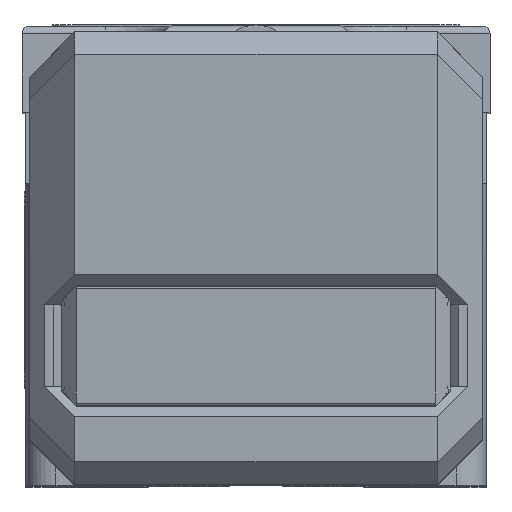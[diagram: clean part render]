
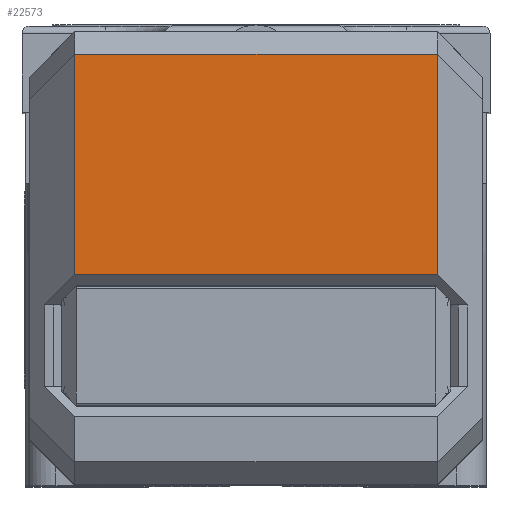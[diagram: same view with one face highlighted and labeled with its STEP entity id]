
A CAD part, top view. The second image highlights one B-rep face of the part: STEP entity #22573.
In plain terms, the highlighted planar face has unit normal (0, 0, 1).
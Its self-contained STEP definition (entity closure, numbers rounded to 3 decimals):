
#5208=DIRECTION('',(0.,1.,0.));
#5209=VECTOR('',#5208,14.6);
#5210=CARTESIAN_POINT('',(-12.,3.9,38.));
#5211=LINE('',#5210,#5209);
#5224=DIRECTION('',(0.,-1.,0.));
#5225=VECTOR('',#5224,14.6);
#5226=CARTESIAN_POINT('',(12.,18.5,38.));
#5227=LINE('',#5226,#5225);
#5244=DIRECTION('',(1.,0.,0.));
#5245=VECTOR('',#5244,24.);
#5246=CARTESIAN_POINT('',(-12.,3.9,38.));
#5247=LINE('',#5246,#5245);
#5248=DIRECTION('',(1.,0.,0.));
#5249=VECTOR('',#5248,24.);
#5250=CARTESIAN_POINT('',(-12.,18.5,38.));
#5251=LINE('',#5250,#5249);
#15094=CARTESIAN_POINT('',(-12.,18.5,38.));
#15095=CARTESIAN_POINT('',(12.,18.5,38.));
#15096=VERTEX_POINT('',#15094);
#15097=VERTEX_POINT('',#15095);
#15174=CARTESIAN_POINT('',(-12.,3.9,38.));
#15175=CARTESIAN_POINT('',(12.,3.9,38.));
#15176=VERTEX_POINT('',#15174);
#15177=VERTEX_POINT('',#15175);
#22561=CARTESIAN_POINT('',(0.,-10.,38.));
#22562=DIRECTION('',(0.,0.,-1.));
#22563=DIRECTION('',(1.,0.,0.));
#22564=AXIS2_PLACEMENT_3D('',#22561,#22562,#22563);
#22565=PLANE('',#22564);
#22566=ORIENTED_EDGE('',*,*,#19905,.F.);
#22567=ORIENTED_EDGE('',*,*,#22506,.T.);
#22569=ORIENTED_EDGE('',*,*,#22568,.T.);
#22570=ORIENTED_EDGE('',*,*,#22543,.T.);
#22571=EDGE_LOOP('',(#22566,#22567,#22569,#22570));
#22572=FACE_OUTER_BOUND('',#22571,.F.);
#19905=EDGE_CURVE('',#15176,#15177,#5247,.T.);
#22506=EDGE_CURVE('',#15176,#15096,#5211,.T.);
#22543=EDGE_CURVE('',#15097,#15177,#5227,.T.);
#22568=EDGE_CURVE('',#15096,#15097,#5251,.T.);
#22573=ADVANCED_FACE('',(#22572),#22565,.F.);
